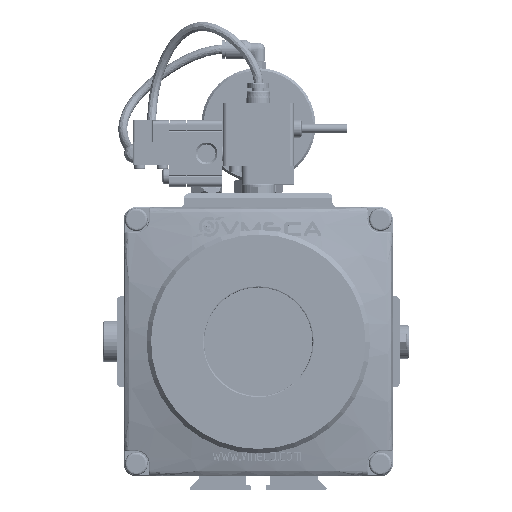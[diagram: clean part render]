
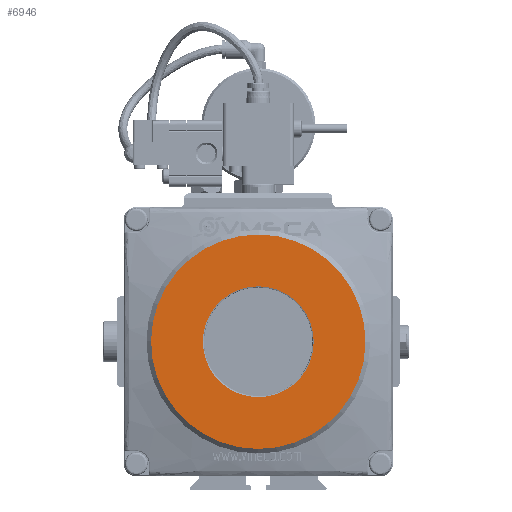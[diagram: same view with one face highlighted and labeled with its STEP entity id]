
A CAD part, left-side view. The second image highlights one B-rep face of the part: STEP entity #6946.
In plain terms, the highlighted planar face has unit normal (-1, 0, 0).
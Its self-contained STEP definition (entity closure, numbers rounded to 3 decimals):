
#6946 = ADVANCED_FACE( '', ( #15293, #15294 ), #15295, .F. );
#15293 = FACE_OUTER_BOUND( '', #26942, .T. );
#15294 = FACE_BOUND( '', #26943, .T. );
#15295 = PLANE( '', #26944 );
#26942 = EDGE_LOOP( '', ( #49006 ) );
#26943 = EDGE_LOOP( '', ( #49007 ) );
#26944 = AXIS2_PLACEMENT_3D( '', #49008, #49009, #49010 );
#49006 = ORIENTED_EDGE( '', *, *, #62723, .T. );
#49007 = ORIENTED_EDGE( '', *, *, #65955, .F. );
#49008 = CARTESIAN_POINT( '', ( -11., 0., 47. ) );
#49009 = DIRECTION( '', ( 1., 0., 0. ) );
#49010 = DIRECTION( '', ( 0., 1., 0. ) );
#62723 = EDGE_CURVE( '', #75448, #75448, #75449, .T. );
#65955 = EDGE_CURVE( '', #79896, #79896, #79897, .T. );
#75448 = VERTEX_POINT( '', #97149 );
#75449 = CIRCLE( '', #97150, 47. );
#79896 = VERTEX_POINT( '', #108117 );
#79897 = CIRCLE( '', #108118, 24.3 );
#97149 = CARTESIAN_POINT( '', ( -11., 0., 47. ) );
#97150 = AXIS2_PLACEMENT_3D( '', #118244, #118245, #118246 );
#108117 = CARTESIAN_POINT( '', ( -11., 0., 24.3 ) );
#108118 = AXIS2_PLACEMENT_3D( '', #121347, #121348, #121349 );
#118244 = CARTESIAN_POINT( '', ( -11., 0., 0. ) );
#118245 = DIRECTION( '', ( -1., 0., 0. ) );
#118246 = DIRECTION( '', ( 0., 0., 1. ) );
#121347 = CARTESIAN_POINT( '', ( -11., 0., 0. ) );
#121348 = DIRECTION( '', ( -1., 0., 0. ) );
#121349 = DIRECTION( '', ( 0., 0., 1. ) );
